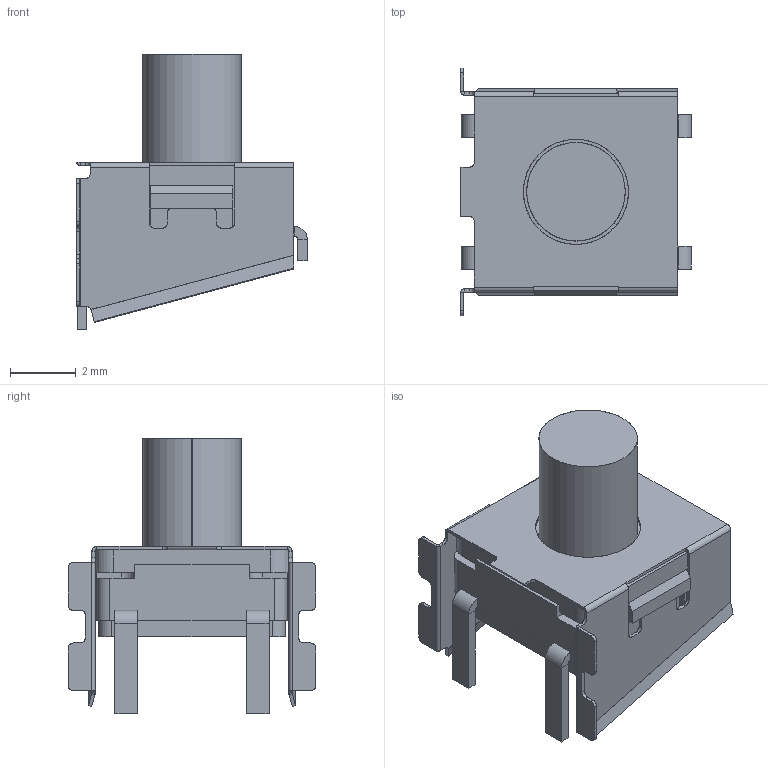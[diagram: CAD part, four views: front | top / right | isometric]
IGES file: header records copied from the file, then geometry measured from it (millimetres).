
Start section: SolidWorks IGES file using analytic representation for surfaces
Global section: file name: I:\J-暫存區\725\TA-633.IGS,15; native system: HSolidWorks 2008; preprocessor: SolidWorks 2008; author: 840601; date: 120117.171659; units: millimetre
Bounding box: 7.03 x 7.55 x 8.4 mm (x, y, z)
Surface area: 380.4 mm2 (no closed solid volume)
Topology: 0 solids, 0 shells, 380 faces, 2850 edges, 2849 vertices
Faces by surface type: bspline 268, revolution 112
